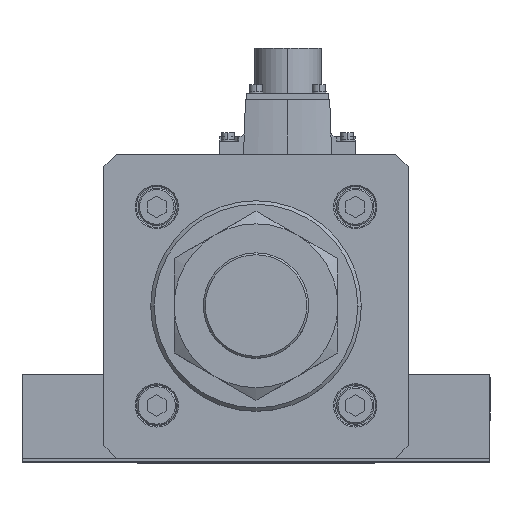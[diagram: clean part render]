
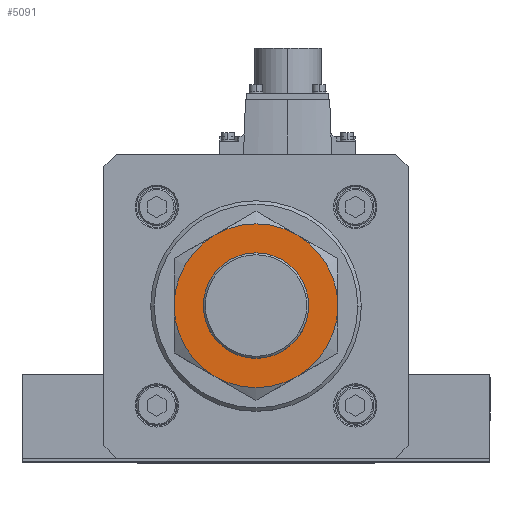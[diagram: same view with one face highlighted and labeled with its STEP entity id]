
A CAD part, top view. The second image highlights one B-rep face of the part: STEP entity #5091.
In plain terms, the highlighted planar face has unit normal (0, 0, 1).
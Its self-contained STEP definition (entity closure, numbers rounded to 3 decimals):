
#1072 = CIRCLE ( 'NONE', #13444, 22.5 ) ;
#1276 = FACE_BOUND ( 'NONE', #9441, .T. ) ;
#1590 = DIRECTION ( 'NONE',  ( -1., 0., 0. ) ) ;
#1715 = CIRCLE ( 'NONE', #3700, 22.5 ) ;
#1808 = CARTESIAN_POINT ( 'NONE',  ( 0., 0., 27. ) ) ;
#2252 = VERTEX_POINT ( 'NONE', #18007 ) ;
#2766 = EDGE_CURVE ( 'NONE', #34022, #29450, #19017, .T. ) ;
#3700 = AXIS2_PLACEMENT_3D ( 'NONE', #15038, #32828, #18148 ) ;
#4282 = CIRCLE ( 'NONE', #27791, 35. ) ;
#4373 = AXIS2_PLACEMENT_3D ( 'NONE', #11726, #17275, #20132 ) ;
#4608 = EDGE_LOOP ( 'NONE', ( #35925, #36225, #5693, #27242, #37666, #10159 ) ) ;
#4766 = CARTESIAN_POINT ( 'NONE',  ( 0., 0., 27. ) ) ;
#4988 = EDGE_CURVE ( 'NONE', #20564, #5850, #1715, .T. ) ;
#5091 = ADVANCED_FACE ( 'NONE', ( #15574, #1276 ), #9603, .T. ) ;
#5158 = EDGE_CURVE ( 'NONE', #35386, #32723, #9567, .T. ) ;
#5693 = ORIENTED_EDGE ( 'NONE', *, *, #28312, .F. ) ;
#5850 = VERTEX_POINT ( 'NONE', #28758 ) ;
#6890 = DIRECTION ( 'NONE',  ( 1., 0., 0. ) ) ;
#7529 = EDGE_CURVE ( 'NONE', #5850, #20564, #1072, .T. ) ;
#8145 = DIRECTION ( 'NONE',  ( 0., 0., -1. ) ) ;
#9006 = DIRECTION ( 'NONE',  ( -1., 0., 0. ) ) ;
#9240 = EDGE_CURVE ( 'NONE', #29450, #24820, #15761, .T. ) ;
#9441 = EDGE_LOOP ( 'NONE', ( #30776, #27377 ) ) ;
#9567 = CIRCLE ( 'NONE', #30900, 35. ) ;
#9603 = PLANE ( 'NONE',  #15069 ) ;
#10159 = ORIENTED_EDGE ( 'NONE', *, *, #18684, .F. ) ;
#10531 = DIRECTION ( 'NONE',  ( -1., 0., 0. ) ) ;
#11011 = CARTESIAN_POINT ( 'NONE',  ( -22.5, 0., 27. ) ) ;
#11104 = DIRECTION ( 'NONE',  ( 0., 0., -1. ) ) ;
#11112 = DIRECTION ( 'NONE',  ( -1., 0., 0. ) ) ;
#11520 = AXIS2_PLACEMENT_3D ( 'NONE', #14701, #28727, #9006 ) ;
#11726 = CARTESIAN_POINT ( 'NONE',  ( 0., 0., 27. ) ) ;
#12606 = CARTESIAN_POINT ( 'NONE',  ( 0., 0., 27. ) ) ;
#13444 = AXIS2_PLACEMENT_3D ( 'NONE', #33613, #25074, #19301 ) ;
#13498 = DIRECTION ( 'NONE',  ( 0., 0., -1. ) ) ;
#14090 = DIRECTION ( 'NONE',  ( -1., 0., 0. ) ) ;
#14701 = CARTESIAN_POINT ( 'NONE',  ( 0., 0., 27. ) ) ;
#15038 = CARTESIAN_POINT ( 'NONE',  ( 0., 0., 27. ) ) ;
#15069 = AXIS2_PLACEMENT_3D ( 'NONE', #12606, #27260, #6890 ) ;
#15542 = CARTESIAN_POINT ( 'NONE',  ( -35., 0., 27. ) ) ;
#15574 = FACE_OUTER_BOUND ( 'NONE', #4608, .T. ) ;
#15761 = CIRCLE ( 'NONE', #18395, 35. ) ;
#16874 = CARTESIAN_POINT ( 'NONE',  ( 17.5, -30.311, 27. ) ) ;
#17275 = DIRECTION ( 'NONE',  ( 0., 0., -1. ) ) ;
#18007 = CARTESIAN_POINT ( 'NONE',  ( -17.5, 30.311, 27. ) ) ;
#18148 = DIRECTION ( 'NONE',  ( 1., 0., 0. ) ) ;
#18395 = AXIS2_PLACEMENT_3D ( 'NONE', #28174, #25588, #10531 ) ;
#18684 = EDGE_CURVE ( 'NONE', #24820, #35386, #4282, .T. ) ;
#19017 = CIRCLE ( 'NONE', #4373, 35. ) ;
#19301 = DIRECTION ( 'NONE',  ( 1., 0., 0. ) ) ;
#20132 = DIRECTION ( 'NONE',  ( -1., 0., 0. ) ) ;
#20564 = VERTEX_POINT ( 'NONE', #11011 ) ;
#21074 = CIRCLE ( 'NONE', #37584, 35. ) ;
#21891 = EDGE_CURVE ( 'NONE', #32723, #2252, #21074, .T. ) ;
#23051 = CARTESIAN_POINT ( 'NONE',  ( 17.5, 30.311, 27. ) ) ;
#23202 = CARTESIAN_POINT ( 'NONE',  ( -17.5, -30.311, 27. ) ) ;
#24820 = VERTEX_POINT ( 'NONE', #16874 ) ;
#25074 = DIRECTION ( 'NONE',  ( 0., 0., 1. ) ) ;
#25588 = DIRECTION ( 'NONE',  ( 0., 0., -1. ) ) ;
#27242 = ORIENTED_EDGE ( 'NONE', *, *, #21891, .F. ) ;
#27260 = DIRECTION ( 'NONE',  ( 0., 0., 1. ) ) ;
#27377 = ORIENTED_EDGE ( 'NONE', *, *, #7529, .F. ) ;
#27688 = CIRCLE ( 'NONE', #11520, 35. ) ;
#27791 = AXIS2_PLACEMENT_3D ( 'NONE', #1808, #8145, #11112 ) ;
#28174 = CARTESIAN_POINT ( 'NONE',  ( 0., 0., 27. ) ) ;
#28312 = EDGE_CURVE ( 'NONE', #2252, #34022, #27688, .T. ) ;
#28727 = DIRECTION ( 'NONE',  ( 0., 0., -1. ) ) ;
#28758 = CARTESIAN_POINT ( 'NONE',  ( 22.5, 0., 27. ) ) ;
#29450 = VERTEX_POINT ( 'NONE', #34623 ) ;
#30776 = ORIENTED_EDGE ( 'NONE', *, *, #4988, .F. ) ;
#30900 = AXIS2_PLACEMENT_3D ( 'NONE', #34119, #13498, #1590 ) ;
#32723 = VERTEX_POINT ( 'NONE', #15542 ) ;
#32828 = DIRECTION ( 'NONE',  ( 0., 0., 1. ) ) ;
#33613 = CARTESIAN_POINT ( 'NONE',  ( 0., 0., 27. ) ) ;
#34022 = VERTEX_POINT ( 'NONE', #23051 ) ;
#34119 = CARTESIAN_POINT ( 'NONE',  ( 0., 0., 27. ) ) ;
#34623 = CARTESIAN_POINT ( 'NONE',  ( 35., 0., 27. ) ) ;
#35386 = VERTEX_POINT ( 'NONE', #23202 ) ;
#35925 = ORIENTED_EDGE ( 'NONE', *, *, #9240, .F. ) ;
#36225 = ORIENTED_EDGE ( 'NONE', *, *, #2766, .F. ) ;
#37584 = AXIS2_PLACEMENT_3D ( 'NONE', #4766, #11104, #14090 ) ;
#37666 = ORIENTED_EDGE ( 'NONE', *, *, #5158, .F. ) ;
